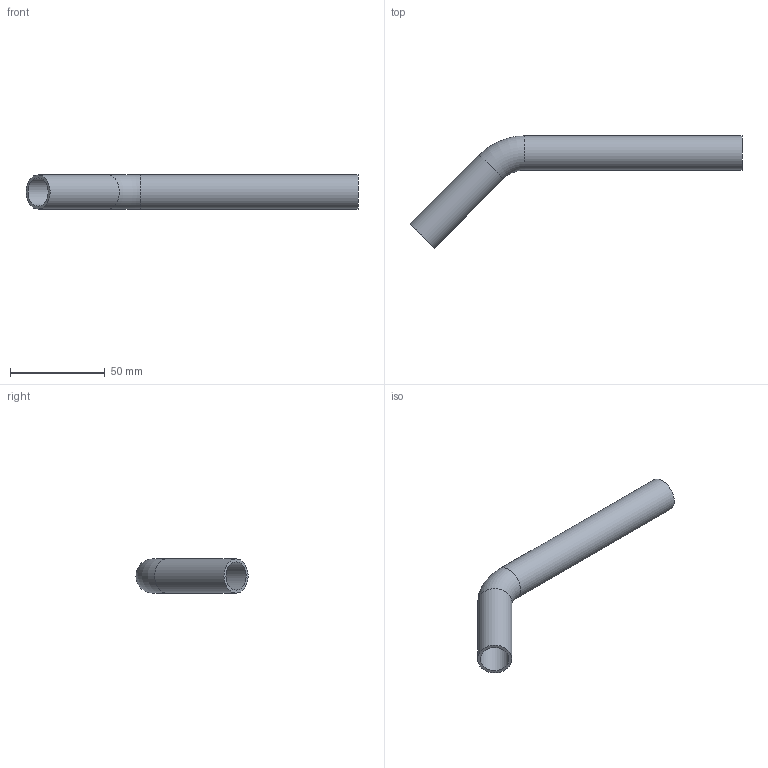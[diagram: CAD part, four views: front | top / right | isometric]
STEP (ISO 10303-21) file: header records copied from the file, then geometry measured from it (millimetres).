
FILE_DESCRIPTION((''),'2;1');
FILE_NAME('G:\Technics\CAD\Bauteile\018\6904218(1).stp','2008-01-31T09:29:05',('herberg'),(''),'Autodesk Inventor 2008','Autodesk Inventor 2008','');
FILE_SCHEMA(('AUTOMOTIVE_DESIGN { 1 0 10303 214 1 1 1 1 }'));
Length unit declared in the file: millimetre
Products named in the file (1): 6904218(1)
Bounding box: 175.2 x 59.2 x 18 mm (x, y, z)
Volume: 14456.4 mm3; surface area: 19430.8 mm2
Topology: 1 solids, 1 shells, 8 faces, 14 edges, 8 vertices
Faces by surface type: cylinder 4, torus 2, plane 2
Full cylindrical faces by diameter (mm): 15 x2, 18 x2
Entity records: 194 total; most frequent: DIRECTION 34, CARTESIAN_POINT 25, AXIS2_PLACEMENT_3D 17, ORIENTED_EDGE 16, EDGE_LOOP 16, VERTEX_POINT 8, CIRCLE 8, EDGE_CURVE 8
